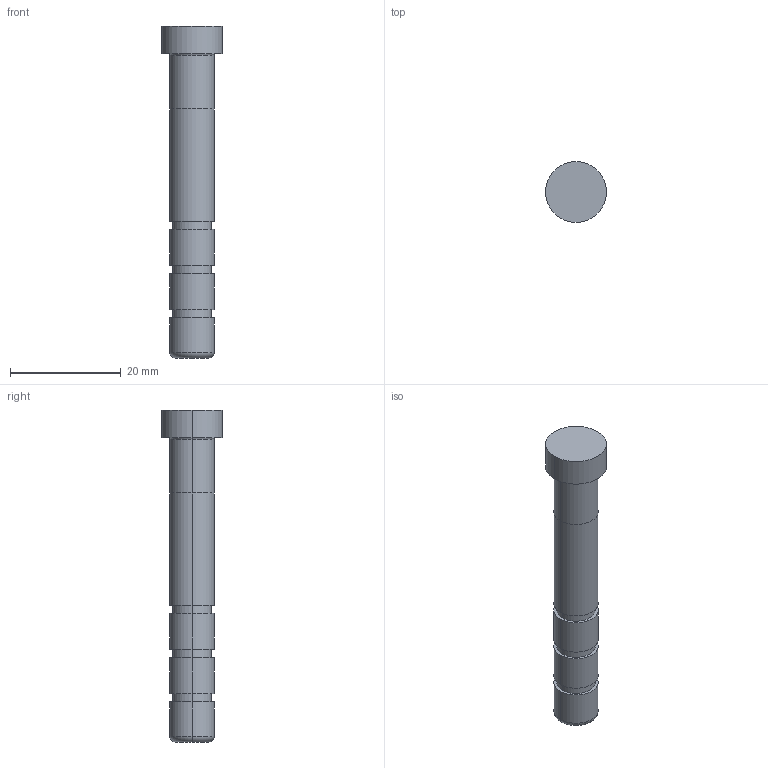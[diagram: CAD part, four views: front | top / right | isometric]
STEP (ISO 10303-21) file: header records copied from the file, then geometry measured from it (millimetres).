
FILE_DESCRIPTION(/* description */ (''),/* implementation_level */ '2;1');
FILE_NAME(/* name */ '3d_sgoh8-60_05213_r00.stp',/* time_stamp */ '2011-01-10T14:11:07+09:00',/* author */ ('MISUMI'),/* organization */ (''),/* preprocessor_version */ 'ST-DEVELOPER v11',/* originating_system */ 'UGS - NX 5.0',/* authorisation */ '');
FILE_SCHEMA (('CONFIG_CONTROL_DESIGN'));
Length unit declared in the file: millimetre
Products named in the file (1): 3d_sgoh8-60_05213_r00
Bounding box: 11 x 11 x 60 mm (x, y, z)
Volume: 3182 mm3; surface area: 1787.8 mm2
Topology: 1 solids, 1 shells, 31 faces, 60 edges, 38 vertices
Faces by surface type: cylinder 18, plane 9, torus 4
Entity records: 894 total; most frequent: DIRECTION 166, CARTESIAN_POINT 130, ORIENTED_EDGE 120, AXIS2_PLACEMENT_3D 74, EDGE_CURVE 60, CIRCLE 42, EDGE_LOOP 38, VERTEX_POINT 38
